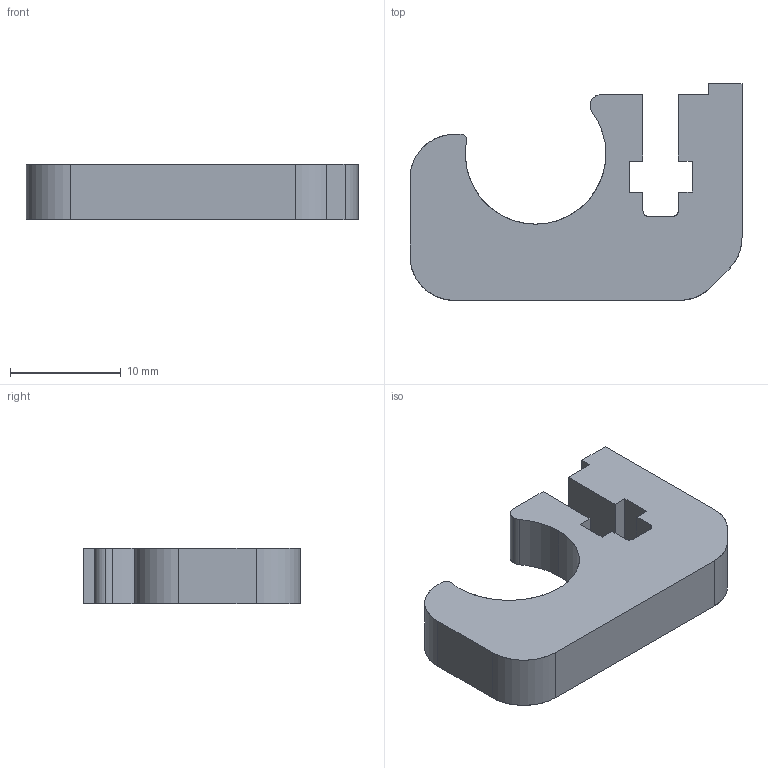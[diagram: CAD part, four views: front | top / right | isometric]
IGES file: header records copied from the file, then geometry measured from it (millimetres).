
Start section: SolidWorks IGES file using analytic representation for surfaces
Global section: file name: C:\Documents and Settings\Administrator\Desktop\coreXY\CoreXY EVT1\20110623\corexy1_bushingclip.IGS; native system: SolidWorks 2009; preprocessor: SolidWorks 2009; author: Administrator; date: 120423.190710; units: millimetre
Bounding box: 30 x 19.59 x 5 mm (x, y, z)
Surface area: 1372.8 mm2 (no closed solid volume)
Topology: 0 solids, 0 shells, 34 faces, 302 edges, 302 vertices
Faces by surface type: bspline 22, revolution 12
